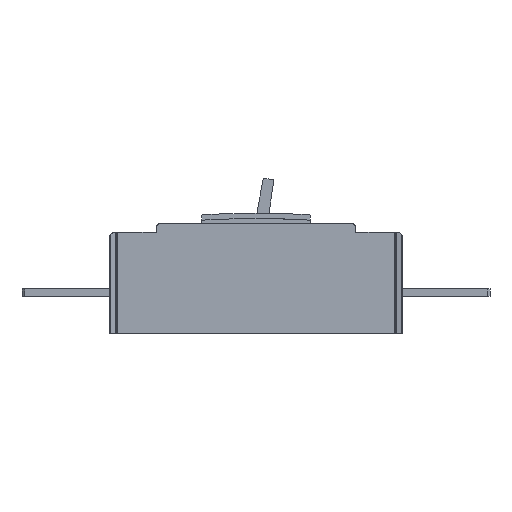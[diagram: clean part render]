
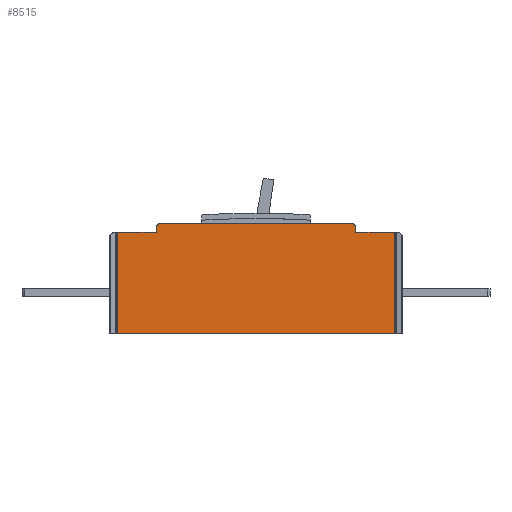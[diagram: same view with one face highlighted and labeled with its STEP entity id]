
A CAD part, left-side view. The second image highlights one B-rep face of the part: STEP entity #8515.
In plain terms, the highlighted planar face has unit normal (-1, 0, 0).
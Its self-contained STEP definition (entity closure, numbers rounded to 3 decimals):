
#17 = DIRECTION ( 'NONE',  ( 0., 0., -1. ) ) ;
#106 = EDGE_CURVE ( 'NONE', #2050, #6917, #10746, .T. ) ;
#150 = DIRECTION ( 'NONE',  ( 0., 0., -1. ) ) ;
#202 = CIRCLE ( 'NONE', #1897, 3. ) ;
#345 = CARTESIAN_POINT ( 'NONE',  ( -105., -90.5, 103. ) ) ;
#370 = CARTESIAN_POINT ( 'NONE',  ( -105., -94.5, 95. ) ) ;
#546 = CIRCLE ( 'NONE', #3589, 3. ) ;
#877 = VERTEX_POINT ( 'NONE', #5929 ) ;
#927 = LINE ( 'NONE', #6520, #2850 ) ;
#934 = CARTESIAN_POINT ( 'NONE',  ( -105., -93.5, 100. ) ) ;
#988 = VERTEX_POINT ( 'NONE', #10232 ) ;
#1134 = CARTESIAN_POINT ( 'NONE',  ( -105., 93.5, 0. ) ) ;
#1171 = DIRECTION ( 'NONE',  ( 0., 0., 1. ) ) ;
#1897 = AXIS2_PLACEMENT_3D ( 'NONE', #10873, #9150, #4121 ) ;
#2050 = VERTEX_POINT ( 'NONE', #9099 ) ;
#2240 = EDGE_CURVE ( 'NONE', #2908, #988, #3019, .T. ) ;
#2253 = DIRECTION ( 'NONE',  ( 0., 0., -1. ) ) ;
#2318 = DIRECTION ( 'NONE',  ( 0., -1., 0. ) ) ;
#2324 = DIRECTION ( 'NONE',  ( 0., -1., 0. ) ) ;
#2496 = ORIENTED_EDGE ( 'NONE', *, *, #6220, .T. ) ;
#2643 = ORIENTED_EDGE ( 'NONE', *, *, #106, .T. ) ;
#2751 = CARTESIAN_POINT ( 'NONE',  ( -105., -93.5, 0. ) ) ;
#2850 = VECTOR ( 'NONE', #2324, 1000. ) ;
#2908 = VERTEX_POINT ( 'NONE', #370 ) ;
#3019 = LINE ( 'NONE', #6905, #7792 ) ;
#3022 = ORIENTED_EDGE ( 'NONE', *, *, #9892, .F. ) ;
#3132 = DIRECTION ( 'NONE',  ( 1., 0., 0. ) ) ;
#3366 = AXIS2_PLACEMENT_3D ( 'NONE', #10085, #6688, #17 ) ;
#3480 = VECTOR ( 'NONE', #5346, 1000. ) ;
#3523 = DIRECTION ( 'NONE',  ( 1., 0., 0. ) ) ;
#3532 = LINE ( 'NONE', #7315, #10275 ) ;
#3589 = AXIS2_PLACEMENT_3D ( 'NONE', #10280, #3523, #150 ) ;
#3871 = EDGE_LOOP ( 'NONE', ( #4891, #2643, #6533, #4927, #2496, #9814, #3022, #4406, #7424, #7736, #10704 ) ) ;
#4093 = EDGE_CURVE ( 'NONE', #9527, #877, #202, .T. ) ;
#4121 = DIRECTION ( 'NONE',  ( 0., 0., -1. ) ) ;
#4211 = LINE ( 'NONE', #2751, #7249 ) ;
#4406 = ORIENTED_EDGE ( 'NONE', *, *, #6271, .F. ) ;
#4514 = CARTESIAN_POINT ( 'NONE',  ( -105., 130.004, 145.771 ) ) ;
#4724 = LINE ( 'NONE', #1134, #6175 ) ;
#4784 = CARTESIAN_POINT ( 'NONE',  ( -105., 0., 0. ) ) ;
#4804 = VERTEX_POINT ( 'NONE', #8426 ) ;
#4861 = CARTESIAN_POINT ( 'NONE',  ( -105., -94.5, 96. ) ) ;
#4891 = ORIENTED_EDGE ( 'NONE', *, *, #7751, .F. ) ;
#4927 = ORIENTED_EDGE ( 'NONE', *, *, #2240, .F. ) ;
#5087 = VECTOR ( 'NONE', #8602, 1000. ) ;
#5346 = DIRECTION ( 'NONE',  ( 0., 0., 1. ) ) ;
#5929 = CARTESIAN_POINT ( 'NONE',  ( -105., 90.5, 103. ) ) ;
#6175 = VECTOR ( 'NONE', #1171, 1000. ) ;
#6220 = EDGE_CURVE ( 'NONE', #2908, #6594, #7365, .T. ) ;
#6260 = LINE ( 'NONE', #4514, #3480 ) ;
#6271 = EDGE_CURVE ( 'NONE', #877, #7763, #927, .T. ) ;
#6520 = CARTESIAN_POINT ( 'NONE',  ( -105., 0., 103. ) ) ;
#6533 = ORIENTED_EDGE ( 'NONE', *, *, #9232, .F. ) ;
#6552 = EDGE_CURVE ( 'NONE', #4804, #7807, #9587, .T. ) ;
#6571 = VERTEX_POINT ( 'NONE', #934 ) ;
#6594 = VERTEX_POINT ( 'NONE', #7972 ) ;
#6688 = DIRECTION ( 'NONE',  ( 1., 0., 0. ) ) ;
#6825 = CARTESIAN_POINT ( 'NONE',  ( -105., 0., 95. ) ) ;
#6905 = CARTESIAN_POINT ( 'NONE',  ( -105., 0., 95. ) ) ;
#6917 = VERTEX_POINT ( 'NONE', #8964 ) ;
#7082 = CARTESIAN_POINT ( 'NONE',  ( -105., 93.5, 100.015 ) ) ;
#7249 = VECTOR ( 'NONE', #10346, 1000. ) ;
#7315 = CARTESIAN_POINT ( 'NONE',  ( -105., -130.004, 145.771 ) ) ;
#7365 = CIRCLE ( 'NONE', #7975, 1. ) ;
#7424 = ORIENTED_EDGE ( 'NONE', *, *, #4093, .F. ) ;
#7736 = ORIENTED_EDGE ( 'NONE', *, *, #9619, .F. ) ;
#7751 = EDGE_CURVE ( 'NONE', #2050, #4804, #6260, .T. ) ;
#7763 = VERTEX_POINT ( 'NONE', #345 ) ;
#7792 = VECTOR ( 'NONE', #9425, 1000. ) ;
#7807 = VERTEX_POINT ( 'NONE', #10599 ) ;
#7972 = CARTESIAN_POINT ( 'NONE',  ( -105., -93.5, 96. ) ) ;
#7975 = AXIS2_PLACEMENT_3D ( 'NONE', #4861, #3132, #9088 ) ;
#8198 = FACE_OUTER_BOUND ( 'NONE', #3871, .T. ) ;
#8426 = CARTESIAN_POINT ( 'NONE',  ( -105., 130.004, 95. ) ) ;
#8515 = ADVANCED_FACE ( 'NONE', ( #8198 ), #8954, .F. ) ;
#8518 = VECTOR ( 'NONE', #2318, 1000. ) ;
#8602 = DIRECTION ( 'NONE',  ( 0., -1., 0. ) ) ;
#8954 = PLANE ( 'NONE',  #3366 ) ;
#8964 = CARTESIAN_POINT ( 'NONE',  ( -105., -130.004, 0. ) ) ;
#9088 = DIRECTION ( 'NONE',  ( 0., 0., -1. ) ) ;
#9099 = CARTESIAN_POINT ( 'NONE',  ( -105., 130.004, 0. ) ) ;
#9150 = DIRECTION ( 'NONE',  ( 1., 0., 0. ) ) ;
#9232 = EDGE_CURVE ( 'NONE', #988, #6917, #3532, .T. ) ;
#9425 = DIRECTION ( 'NONE',  ( 0., -1., 0. ) ) ;
#9527 = VERTEX_POINT ( 'NONE', #7082 ) ;
#9587 = LINE ( 'NONE', #6825, #5087 ) ;
#9619 = EDGE_CURVE ( 'NONE', #7807, #9527, #4724, .T. ) ;
#9814 = ORIENTED_EDGE ( 'NONE', *, *, #9849, .F. ) ;
#9849 = EDGE_CURVE ( 'NONE', #6571, #6594, #4211, .T. ) ;
#9892 = EDGE_CURVE ( 'NONE', #7763, #6571, #546, .T. ) ;
#10085 = CARTESIAN_POINT ( 'NONE',  ( -105., 0., 0. ) ) ;
#10232 = CARTESIAN_POINT ( 'NONE',  ( -105., -130.004, 95. ) ) ;
#10275 = VECTOR ( 'NONE', #2253, 1000. ) ;
#10280 = CARTESIAN_POINT ( 'NONE',  ( -105., -90.5, 100. ) ) ;
#10346 = DIRECTION ( 'NONE',  ( 0., 0., -1. ) ) ;
#10599 = CARTESIAN_POINT ( 'NONE',  ( -105., 93.5, 95. ) ) ;
#10704 = ORIENTED_EDGE ( 'NONE', *, *, #6552, .F. ) ;
#10746 = LINE ( 'NONE', #4784, #8518 ) ;
#10873 = CARTESIAN_POINT ( 'NONE',  ( -105., 90.5, 100. ) ) ;
